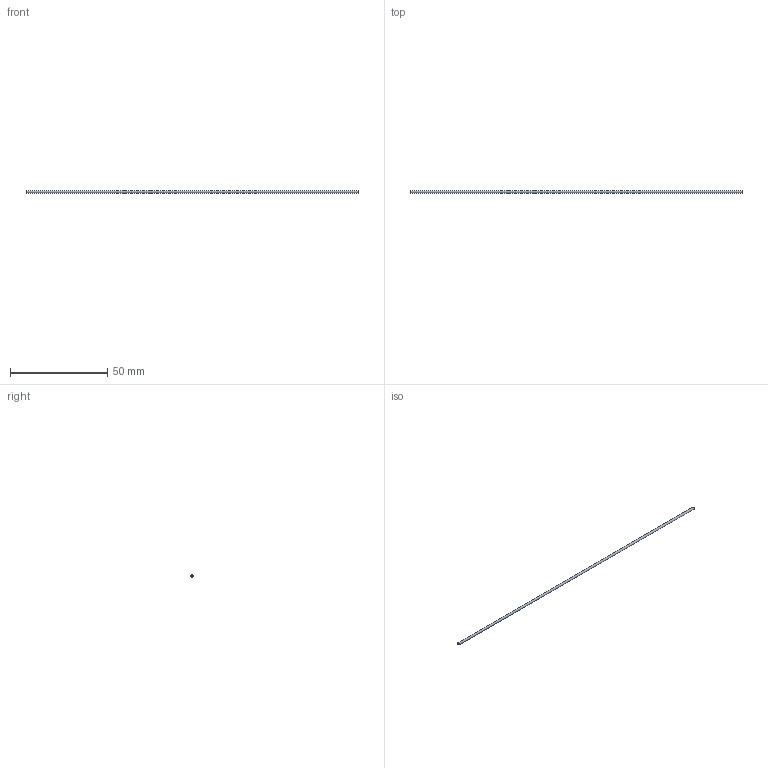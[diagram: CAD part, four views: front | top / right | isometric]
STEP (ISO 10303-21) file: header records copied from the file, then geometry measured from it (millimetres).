
FILE_DESCRIPTION(('Open CASCADE Model'),'2;1');
FILE_NAME('Open CASCADE Shape Model','2026-10-25T05:18:02',('Author'),( 'Open CASCADE'),'Open CASCADE STEP processor 7.9','Open CASCADE 7.9' ,'Unknown');
FILE_SCHEMA(('AUTOMOTIVE_DESIGN { 1 0 10303 214 1 1 1 1 }'));
Length unit declared in the file: millimetre
Products named in the file (1): Open CASCADE STEP translator 7.9 140
Bounding box: 170.5 x 1.2 x 1.2 mm (x, y, z)
Volume: 192.8 mm3; surface area: 645 mm2
Topology: 1 solids, 1 shells, 3 faces, 3 edges, 2 vertices
Faces by surface type: plane 2, cylinder 1
Full cylindrical faces by diameter (mm): 1.2 x1
Entity records: 108 total; most frequent: DIRECTION 19, CARTESIAN_POINT 15, AXIS2_PLACEMENT_3D 6, ORIENTED_EDGE 6, PCURVE 6, DEFINITIONAL_REPRESENTATION 6, LINE 5, VECTOR 5
